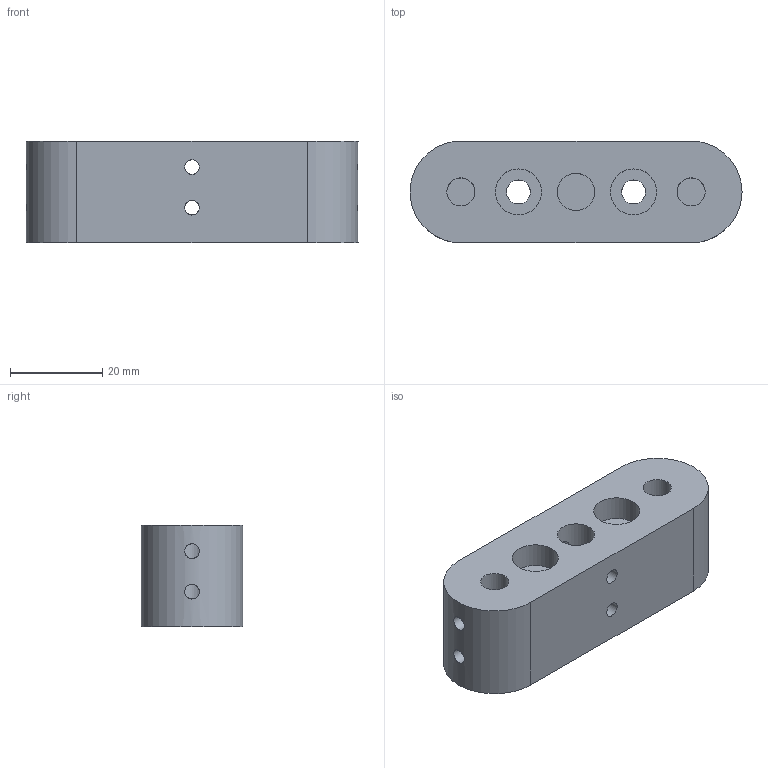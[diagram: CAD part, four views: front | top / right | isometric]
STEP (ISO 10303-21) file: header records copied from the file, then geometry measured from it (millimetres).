
FILE_DESCRIPTION(/* description */ (''),/* implementation_level */ '2;1');
FILE_NAME(/* name */ 'mocowanie chwytaka.step',/* time_stamp */ '2026-03-04T15:15:49+01:00',/* author */ (''),/* organization */ (''),/* preprocessor_version */ 'ST-DEVELOPER v20.1',/* originating_system */ 'Autodesk Translation Framework v14.24.0.0',/* authorisation */ '');
FILE_SCHEMA (('AUTOMOTIVE_DESIGN { 1 0 10303 214 3 1 1 }'));
Length unit declared in the file: millimetre
Products named in the file (1): mocowanie chwytaka
Bounding box: 72.1 x 22.1 x 22 mm (x, y, z)
Volume: 28497 mm3; surface area: 9265.5 mm2
Topology: 1 solids, 1 shells, 26 faces, 63 edges, 42 vertices
Faces by surface type: cylinder 17, plane 9
Full cylindrical faces by diameter (mm): 3.2 x8, 5.2 x2, 6.1 x2, 8.1 x1, 10 x2
Entity records: 1210 total; most frequent: CARTESIAN_POINT 532, ORIENTED_EDGE 126, DIRECTION 123, EDGE_CURVE 63, EDGE_LOOP 49, AXIS2_PLACEMENT_3D 49, VERTEX_POINT 42, FACE_OUTER_BOUND 26
